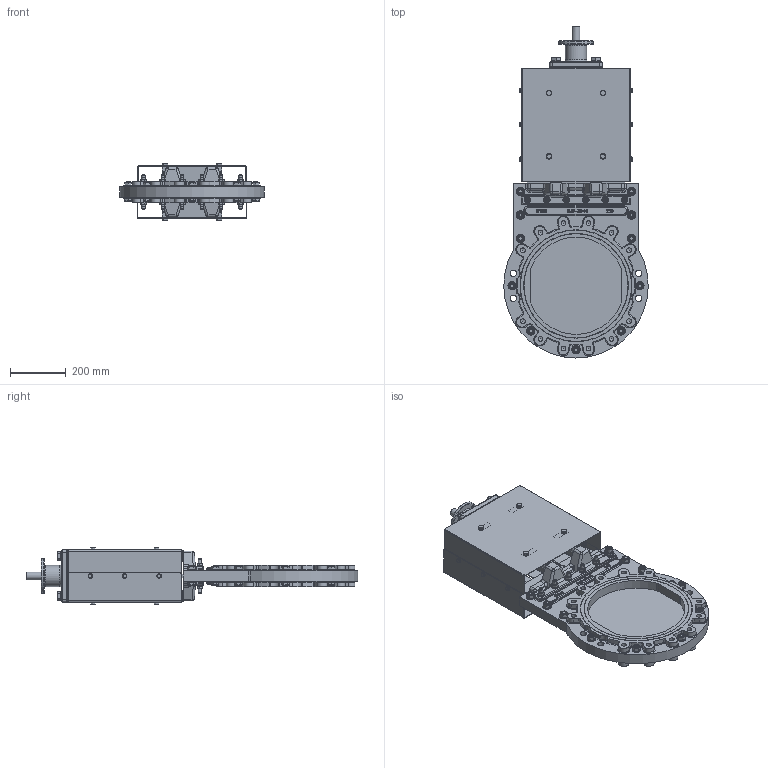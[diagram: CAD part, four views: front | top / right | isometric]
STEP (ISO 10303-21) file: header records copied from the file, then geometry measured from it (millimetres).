
FILE_DESCRIPTION(/* description */ (''),/* implementation_level */ '2;1');
FILE_NAME(/* name */ 'Rising stem knife gate valve with top flange DN350-10.stp',/* time_stamp */ '2025-04-21T16:03:19+08:00',/* author */ (''),/* organization */ (''),/* preprocessor_version */ 'ST-DEVELOPER v15',/* originating_system */ 'SIEMENS PLM Software NX 10.0',/* authorisation */ '');
FILE_SCHEMA (('AP203_CONFIGURATION_CONTROLLED_3D_DESIGN_OF_MECHANICAL_PARTS_AND_ASSEMBLIES_MIM_LF { 1 0 10303 403 2 1 2}'));
Products named in the file (1): Admi256412D81n9j
Bounding box: 519.99 x 1195.5 x 204.8 mm (x, y, z)
Volume: 15869234.6 mm3; surface area: 2486624.7 mm2
Topology: 1 solids, 51 shells, 2930 faces, 7021 edges, 4468 vertices
Faces by surface type: plane 1314, cylinder 781, cone 322, bspline 322, torus 119, extrusion 46, sphere 26
Full cylindrical faces by diameter (mm): 2 x4, 5.2 x1, 8 x12, 8.4 x12, 8.5 x8, 9.5 x12, 10 x8, 10.5 x8, 11 x12, 11.4 x6, 12 x32, 12.5 x12, 13 x12, 15.053 x11, 15.6 x8, 16 x38, 16.5 x2, 17 x22, 17.294 x24, 17.5 x8, 19.053 x4, 20 x16, 21 x12, 22 x23, 23 x7, 24 x12, 25 x6, 27 x4, 28 x5, 30 x22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
Entity records: 87328 total; most frequent: CARTESIAN_POINT 25902, ORIENTED_EDGE 12046, DIRECTION 11772, EDGE_CURVE 6023, AXIS2_PLACEMENT_3D 4641, VERTEX_POINT 4179, EDGE_LOOP 4046, ADVANCED_FACE 2930
